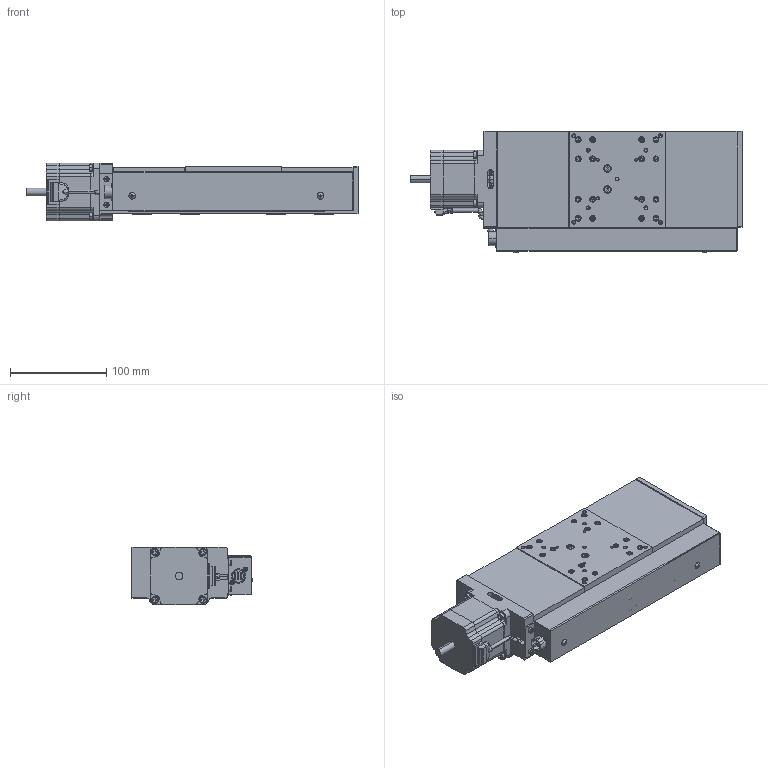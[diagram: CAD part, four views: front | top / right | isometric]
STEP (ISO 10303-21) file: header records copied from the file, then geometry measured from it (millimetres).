
FILE_DESCRIPTION (( 'STEP AP203' ), '1' );
FILE_NAME ('XA10A-L101.STEP', '2019-02-25T05:18:54', ( '' ), ( '' ), 'SwSTEP 2.0', 'SolidWorks 2018', '' );
FILE_SCHEMA (( 'CONFIG_CONTROL_DESIGN' ));
Length unit declared in the file: millimetre
Products named in the file (6): bellows-Part-2; base; table; bellows-Part-1; XA10A-L101; bellows
Assembly tree (5 placements, depth 3):
  XA10A-L101
    bellows
      bellows-Part-1
      bellows-Part-2
    table
    base
Bounding box: 345.5 x 126.89 x 60 mm (x, y, z)
Volume: 1198062.6 mm3; surface area: 271793.4 mm2
Topology: 4 solids, 5 shells, 2566 faces, 6209 edges, 3729 vertices
Faces by surface type: plane 1495, cylinder 623, cone 390, bspline 20, sphere 20, torus 18
Entity records: 74681 total; most frequent: CARTESIAN_POINT 13527, DIRECTION 13168, ORIENTED_EDGE 12130, EDGE_CURVE 6065, AXIS2_PLACEMENT_3D 4648, LINE 3872, VECTOR 3872, VERTEX_POINT 3729
